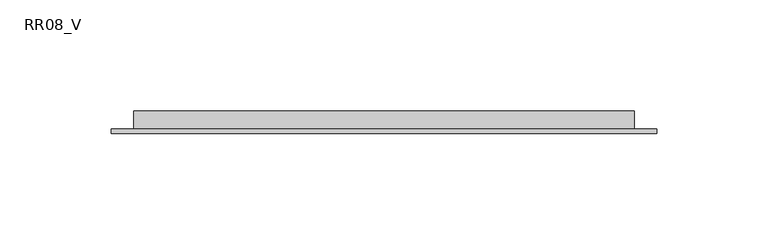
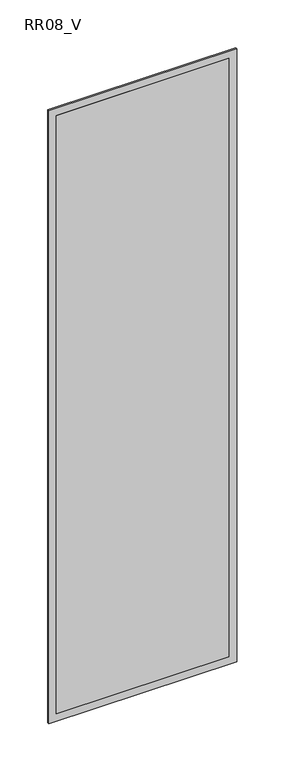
"""IFC4 building model written with IfcOpenShell, lengths in millimetres: air terminal geometry, ZYR_03.06.04.01 Reixa Paret Retorn : RR08_V."""

from ifc_helpers import new_model, si_unit, frame, origin, place, context, project, spatial, polyline, outline, extrude, source, transform, mapped, element, save


def rr08_v_4c6e56e1(model_context):
    return source(origin(), model_context, "Body", "SweptSolid", [
        extrude(outline(polyline([(112.5, 0.0), (-112.5, 0.0), (-112.5, 10.0), (112.5, 10.0), (112.5, 0.0)])), frame((0.0, 0.0, -412.5), z_axis=(0.0, 0.0, 1.0), x_axis=(1.0, 0.0, 0.0)), (0.0, 0.0, 1.0), 825.0),
        extrude(outline(polyline([(422.5, 122.5), (422.5, -122.5), (-422.5, -122.5), (-422.5, 122.5), (422.5, 122.5)]), holes=[polyline([(412.5, 112.5), (-412.5, 112.5), (-412.5, -112.5), (412.5, -112.5), (412.5, 112.5)])]), frame((0.0, 0.0, 0.0), z_axis=(0.0, 1.0, 0.0), x_axis=(0.0, 0.0, 1.0)), (0.0, 0.0, 1.0), 2.0),
    ])


if __name__ == "__main__":
    model = new_model("IFC4")
    model_context = context("Model", 3, world=origin())
    ifc_project = project(units=[si_unit("LENGTHUNIT", "METRE", prefix="MILLI")], contexts=[model_context])
    site = spatial("IfcSite", under=ifc_project)
    building = spatial("IfcBuilding", under=site)
    placement = place(None, origin())
    rr08_v_shape = rr08_v_4c6e56e1(model_context)
    element("IfcAirTerminal", 1, ObjectType="ZYR_03.06.04.01 Reixa Paret Retorn : RR08_V", at=placement, inside=building, context=model_context, shape_type="MappedRepresentation", body=[
        mapped(rr08_v_shape, transform((0.0, 0.0, 0.0), x_axis=(1.0, 0.0, 0.0), y_axis=(0.0, 1.0, 0.0), z_axis=(0.0, 0.0, 1.0))),
    ])
    save(model, "model.ifc")
